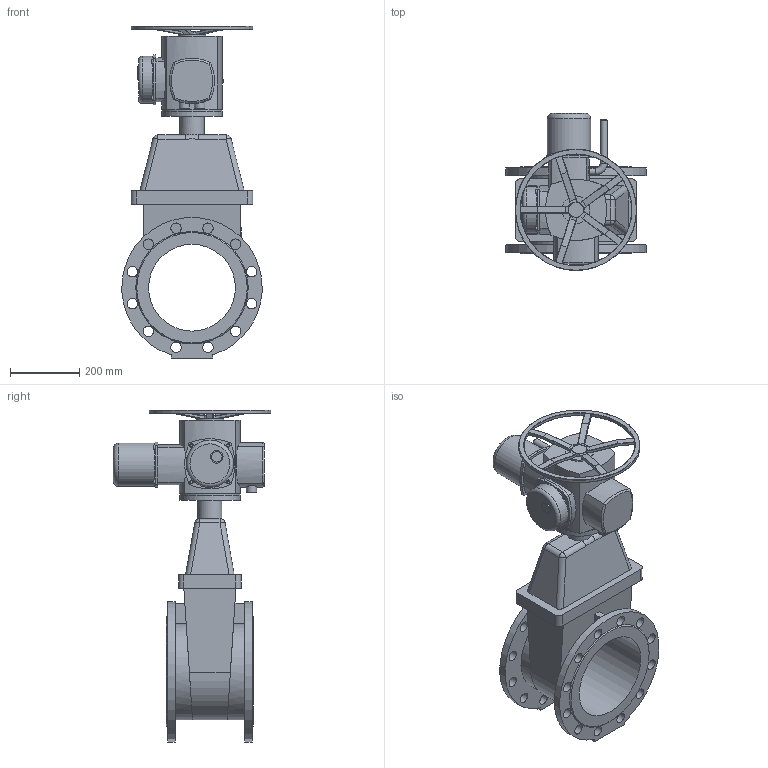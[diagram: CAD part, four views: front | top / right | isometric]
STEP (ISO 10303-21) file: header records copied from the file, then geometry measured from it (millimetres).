
FILE_DESCRIPTION(('STEP AP203'), '1');
FILE_NAME('青溻桄赅 47GVA DN250 PN10_PN16+MT903.Z30', '', ('UNSPECIFIED'), ('UNSPECIFIED'), 'ASCON STEP Converter 1.6', 'ASCON Math Kernel', '');
FILE_SCHEMA(('CONFIG_CONTROL_DESIGN'));
Length unit declared in the file: millimetre
Bounding box: 404.15 x 453 x 956.5 mm (x, y, z)
Volume: 29220738.3 mm3; surface area: 1571663.4 mm2
Topology: 2 solids, 2 shells, 404 faces, 969 edges, 594 vertices
Faces by surface type: cylinder 201, plane 162, torus 25, bspline 9, cone 7
Full cylindrical faces by diameter (mm): 10 x8, 13.835 x4, 18 x4, 20 x2, 29.22 x1, 30 x27, 36 x1, 40 x1, 70 x1, 80 x1, 100 x2, 125 x1, 135 x1, 175 x2, 250 x1, 350 x1
Entity records: 19309 total; most frequent: CARTESIAN_POINT 7351, ORIENTED_EDGE 1742, DIRECTION 1709, EDGE_CURVE 871, AXIS2_PLACEMENT_3D 682, EDGE_LOOP 589, VERTEX_POINT 588, FACE_BOUND 422
